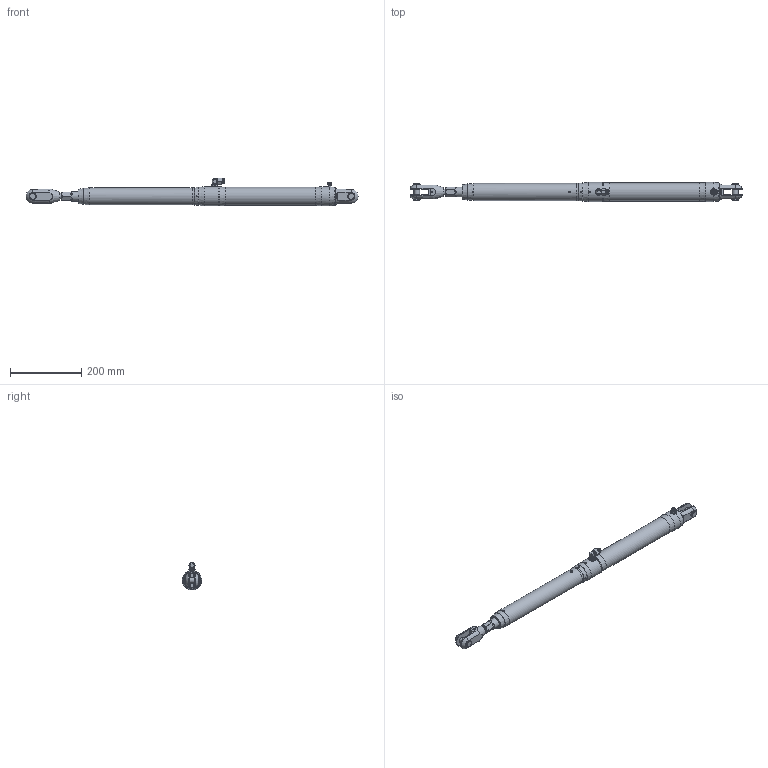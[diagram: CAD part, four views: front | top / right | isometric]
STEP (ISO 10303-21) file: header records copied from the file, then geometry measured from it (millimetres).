
FILE_DESCRIPTION(/* description */ (''),/* implementation_level */ '2;1');
FILE_NAME(/* name */ 'Q:\AA BRAND HYDRAULICS\HYDRAULICS FAMILY DIRECTORY\HYDRAULICS\CYLINDERS\MECHANICAL LOCK RAMS\ALUMINIUM - STAINLESS SINGLE ACTING (-0012 To -0150)\MSA-0012-S0260-NP-71\MSA-0012-S0260-NP-71 (Closed).stp',/* time_stamp */ '2018-04-25T13:49:54+01:00',/* author */ ('Lorena'),/* organization */ (''),/* preprocessor_version */ 'ST-DEVELOPER v17',/* originating_system */ 'Autodesk Inventor 2018',/* authorisation */ '');
FILE_SCHEMA (('AUTOMOTIVE_DESIGN { 1 0 10303 214 3 1 1 }'));
Length unit declared in the file: millimetre
Products named in the file (1): MSA-0012-S0260-NP-71 (Closed)
Bounding box: 933.15 x 53.8 x 78.12 mm (x, y, z)
Volume: 1582043.3 mm3; surface area: 158006.1 mm2
Topology: 2 solids, 4 shells, 516 faces, 1358 edges, 884 vertices
Faces by surface type: plane 289, cone 131, cylinder 81, torus 6, bspline 5, sphere 4
Full cylindrical faces by diameter (mm): 3 x4, 3.5 x1, 4 x1, 4.2 x2, 4.4 x1, 5 x4, 7 x1, 7.728 x1, 8.728 x1, 8.8 x3, 9 x1, 9.728 x2, 10 x2, 11.11 x1, 11.8 x2, 12 x3, 13 x1, 15.1 x3, 15.88 x2, 17.5 x1, 18 x1, 19.85 x2, 27 x2, 28 x2, 31 x1, 48 x1, 50.8 x1, 53.8 x4
Entity records: 17653 total; most frequent: CARTESIAN_POINT 4562, ORIENTED_EDGE 2700, DIRECTION 2600, EDGE_CURVE 1350, AXIS2_PLACEMENT_3D 1002, VERTEX_POINT 885, LINE 596, VECTOR 596
